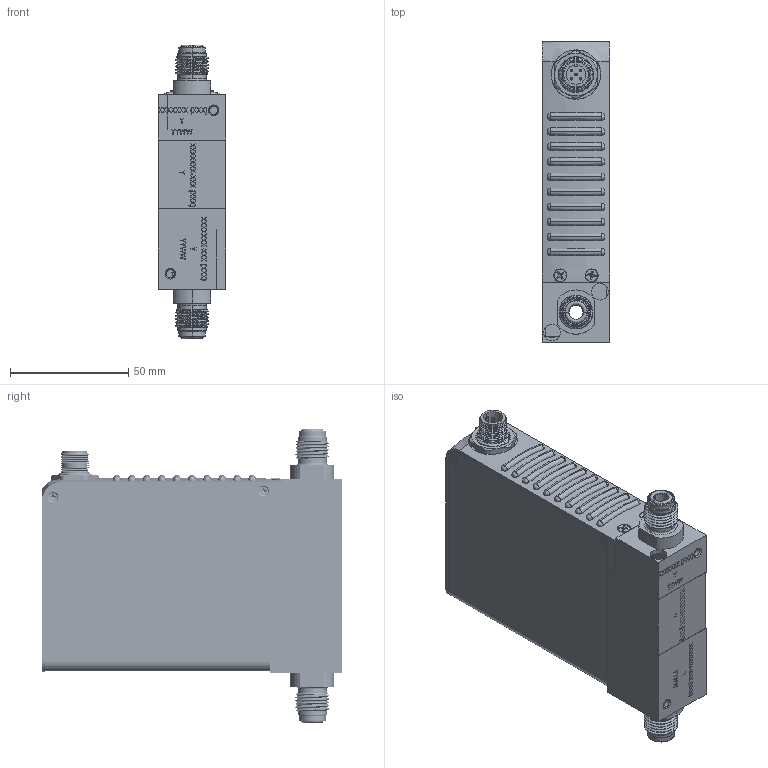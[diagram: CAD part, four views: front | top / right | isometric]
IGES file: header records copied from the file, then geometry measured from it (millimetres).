
Start section: SolidWorks IGES file using analytic representation for surfaces
Global section: file name: G:\Engineering\CAD MODELS FOR SALES\CAD MODEL STORAGE\GF\GF125\CUSTOMER FILES\IGES\GF100-GF120-GF125-VS-DX.IGS; native system: SolidWorks 2020; preprocessor: SolidWorks 2020; author: CFehr; date: 220830.080721; units: inch
Bounding box: 28.45 x 127 x 124.02 mm (x, y, z)
Volume: 58728.5 mm3; surface area: 78635 mm2
Topology: 26 solids, 26 shells, 3960 faces, 10724 edges, 7067 vertices
Faces by surface type: plane 2076, bspline 1063, revolution 821
